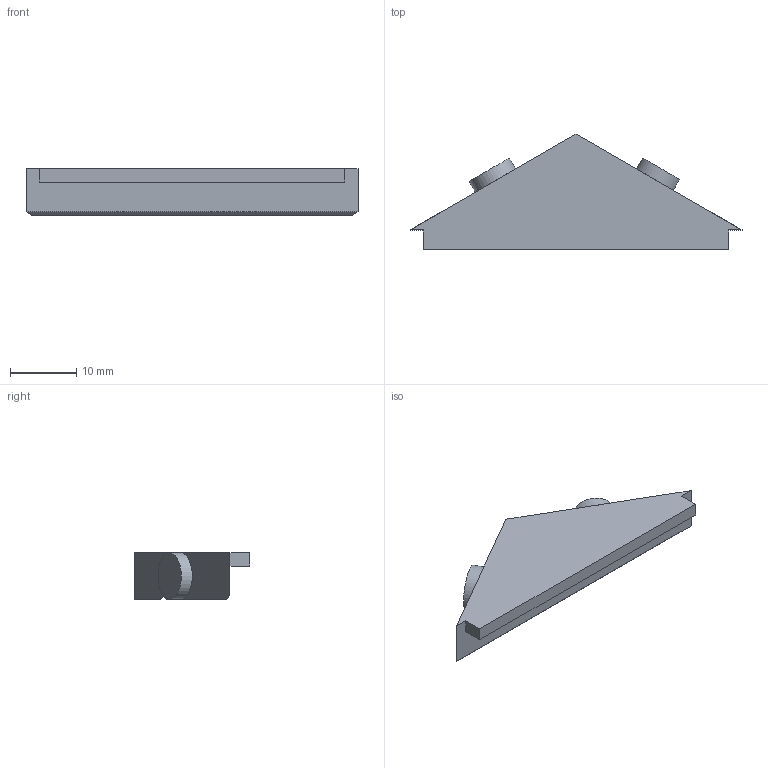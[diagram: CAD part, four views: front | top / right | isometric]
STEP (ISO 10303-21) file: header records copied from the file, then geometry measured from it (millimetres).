
FILE_DESCRIPTION(/* description */ ('','CAx-IF Rec.Pracs.---Representation and Presentation of Product Manufacturing Information (PMI)---4.0---2014-10-13'),/* implementation_level */ '2;1');
FILE_NAME(/* name */ 'Dach-Giebel.step',/* time_stamp */ '2024-12-13T17:56:40+01:00',/* author */ (''),/* organization */ (''),/* preprocessor_version */ 'ST-DEVELOPER v20',/* originating_system */ 'Autodesk Translation Framework v13.20.0.188',/* authorisation */ '');
FILE_SCHEMA (('AP242_MANAGED_MODEL_BASED_3D_ENGINEERING_MIM_LF { 1 0 10303 442 1 1 4 }'));
Length unit declared in the file: millimetre
Products named in the file (1): 01_Dach-Giebel
Bounding box: 50 x 17.43 x 7 mm (x, y, z)
Volume: 2935.1 mm3; surface area: 1837 mm2
Topology: 1 solids, 1 shells, 20 faces, 50 edges, 32 vertices
Faces by surface type: plane 18, cylinder 2
Full cylindrical faces by diameter (mm): 7 x1
Entity records: 630 total; most frequent: CARTESIAN_POINT 103, ORIENTED_EDGE 100, DIRECTION 100, EDGE_CURVE 50, LINE 42, VECTOR 42, VERTEX_POINT 32, AXIS2_PLACEMENT_3D 29
